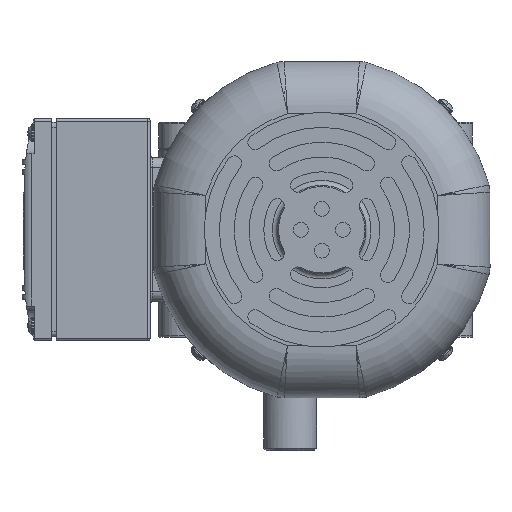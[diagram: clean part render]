
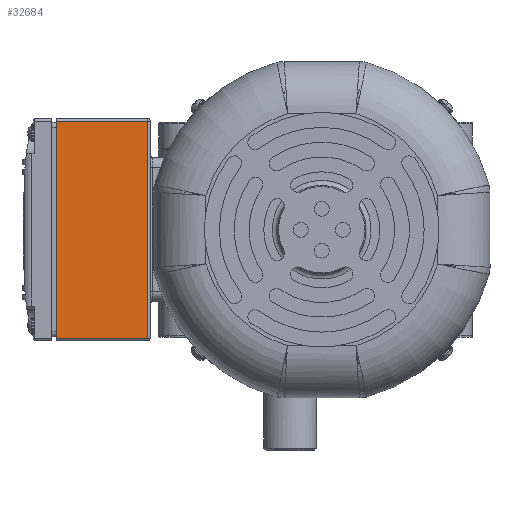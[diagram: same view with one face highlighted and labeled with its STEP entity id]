
A CAD part, left-side view. The second image highlights one B-rep face of the part: STEP entity #32684.
In plain terms, the highlighted planar face has unit normal (-1, 0, 0).
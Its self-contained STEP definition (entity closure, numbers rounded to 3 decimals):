
#961=PLANE('',#34880);
#1857=FACE_OUTER_BOUND('',#3737,.T.);
#3737=EDGE_LOOP('',(#22226,#22227,#22228,#22229));
#7948=LINE('',#50649,#10316);
#7949=LINE('',#50651,#10317);
#7950=LINE('',#50653,#10318);
#7951=LINE('',#50654,#10319);
#10316=VECTOR('',#39907,10.);
#10317=VECTOR('',#39908,10.);
#10318=VECTOR('',#39909,10.);
#10319=VECTOR('',#39910,10.);
#13124=VERTEX_POINT('',#50647);
#13125=VERTEX_POINT('',#50648);
#13126=VERTEX_POINT('',#50650);
#13127=VERTEX_POINT('',#50652);
#16524=EDGE_CURVE('',#13124,#13125,#7948,.T.);
#16525=EDGE_CURVE('',#13126,#13124,#7949,.T.);
#16526=EDGE_CURVE('',#13126,#13127,#7950,.T.);
#16527=EDGE_CURVE('',#13125,#13127,#7951,.T.);
#22226=ORIENTED_EDGE('',*,*,#16524,.F.);
#22227=ORIENTED_EDGE('',*,*,#16525,.F.);
#22228=ORIENTED_EDGE('',*,*,#16526,.T.);
#22229=ORIENTED_EDGE('',*,*,#16527,.F.);
#32684=ADVANCED_FACE('',(#1857),#961,.T.);
#34880=AXIS2_PLACEMENT_3D('',#50646,#39905,#39906);
#39905=DIRECTION('center_axis',(-1.,0.,0.));
#39906=DIRECTION('ref_axis',(0.,1.,0.));
#39907=DIRECTION('',(0.,0.,-1.));
#39908=DIRECTION('',(0.,-1.,0.));
#39909=DIRECTION('',(0.,0.,-1.));
#39910=DIRECTION('',(0.,1.,0.));
#50646=CARTESIAN_POINT('Origin',(-219.716,67.379,61.063));
#50647=CARTESIAN_POINT('',(-219.716,68.379,60.063));
#50648=CARTESIAN_POINT('',(-219.716,68.379,-27.937));
#50649=CARTESIAN_POINT('',(-219.716,68.379,38.563));
#50650=CARTESIAN_POINT('',(-219.716,105.379,60.063));
#50651=CARTESIAN_POINT('',(-219.716,67.379,60.063));
#50652=CARTESIAN_POINT('',(-219.716,105.379,-27.937));
#50653=CARTESIAN_POINT('',(-219.716,105.379,-28.937));
#50654=CARTESIAN_POINT('',(-219.716,67.379,-27.937));
